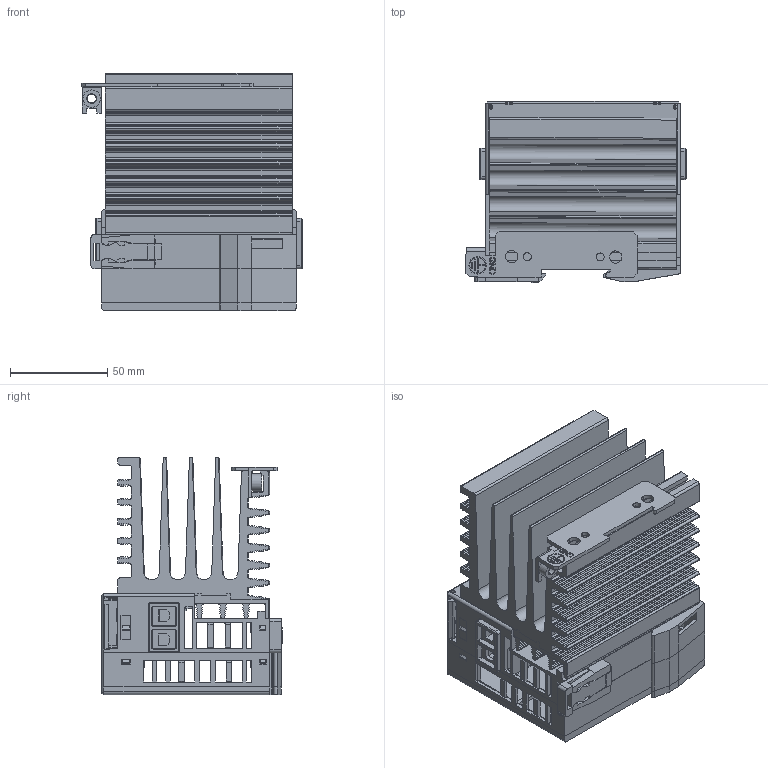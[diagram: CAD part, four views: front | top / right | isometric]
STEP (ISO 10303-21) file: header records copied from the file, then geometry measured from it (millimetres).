
FILE_DESCRIPTION((''),'2;1');
FILE_NAME('TE10_A_REBRAND_1_ASM','2013-09-24T',('LBONNETA'),(''),'PRO/ENGINEER BY PARAMETRIC TECHNOLOGY CORPORATION, 2010280','PRO/ENGINEER BY PARAMETRIC TECHNOLOGY CORPORATION, 2010280','');
FILE_SCHEMA(('CONFIG_CONTROL_DESIGN'));
Products named in the file (14): BD031482; BD031485; BD031484; BD031487; BD031566; BD031483; GA031493; BD031488; BS031489; RGBT-THYRISTOR_ENVELOPE; BS031491; BD031486; BA174229; TE10_A_REBRAND_1_ASM
Assembly tree (14 placements, depth 2):
  TE10_A_REBRAND_1_ASM
    BD031482
    BD031485
    BD031484
    BD031487
    BD031566
    BD031483
    GA031493
    BD031488  x2
    BS031489
    RGBT-THYRISTOR_ENVELOPE
    BS031491
    BD031486
    BA174229
Bounding box: 113.15 x 93 x 122 mm (x, y, z)
Volume: 382551 mm3; surface area: 259134.4 mm2
Topology: 14 solids, 15 shells, 3491 faces, 9947 edges, 6558 vertices
Faces by surface type: plane 2681, cylinder 586, extrusion 151, cone 36, torus 33, bspline 4
Entity records: 111163 total; most frequent: CARTESIAN_POINT 21395, ORIENTED_EDGE 19370, DIRECTION 17380, EDGE_CURVE 9687, VECTOR 8272, LINE 8149, VERTEX_POINT 6388, AXIS2_PLACEMENT_3D 4554
